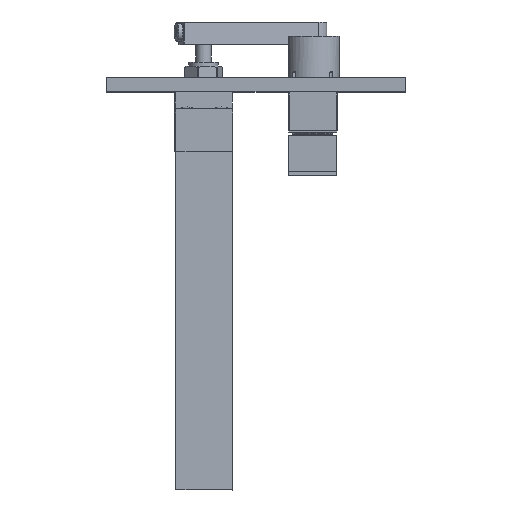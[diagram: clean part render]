
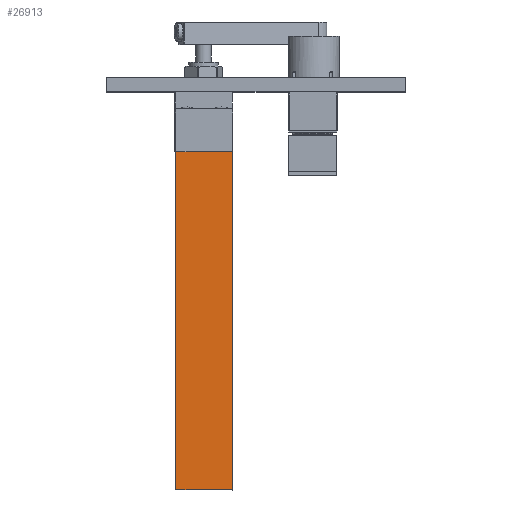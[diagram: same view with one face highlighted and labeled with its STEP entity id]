
A CAD part, top view. The second image highlights one B-rep face of the part: STEP entity #26913.
In plain terms, the highlighted planar face has unit normal (0.015, 0, 1) as drawn and (0, 0, 1) by its records, which use the part's own axes.
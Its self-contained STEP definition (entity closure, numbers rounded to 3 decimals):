
#767 = VECTOR ( 'NONE', #49065, 1000. ) ;
#1006 = PLANE ( 'NONE',  #15538 ) ;
#2140 = LINE ( 'NONE', #9544, #41131 ) ;
#5461 = ORIENTED_EDGE ( 'NONE', *, *, #38863, .F. ) ;
#5748 = LINE ( 'NONE', #20851, #45701 ) ;
#6361 = EDGE_CURVE ( 'NONE', #32248, #42306, #5748, .T. ) ;
#8683 = FACE_OUTER_BOUND ( 'NONE', #48310, .T. ) ;
#9544 = CARTESIAN_POINT ( 'NONE',  ( -20., 119., 7.5 ) ) ;
#9872 = CARTESIAN_POINT ( 'NONE',  ( -20., 119., 7.5 ) ) ;
#11547 = EDGE_CURVE ( 'NONE', #49850, #47573, #2140, .T. ) ;
#15538 = AXIS2_PLACEMENT_3D ( 'NONE', #17145, #44982, #37551 ) ;
#16026 = ORIENTED_EDGE ( 'NONE', *, *, #11547, .T. ) ;
#16731 = CARTESIAN_POINT ( 'NONE',  ( -20., -119., 7.5 ) ) ;
#17145 = CARTESIAN_POINT ( 'NONE',  ( -20., 119., 7.5 ) ) ;
#20101 = CARTESIAN_POINT ( 'NONE',  ( 20., 119., 7.5 ) ) ;
#20242 = CARTESIAN_POINT ( 'NONE',  ( 20., -119., 7.5 ) ) ;
#20851 = CARTESIAN_POINT ( 'NONE',  ( 20., 119., 7.5 ) ) ;
#26913 = ADVANCED_FACE ( 'NONE', ( #8683 ), #1006, .F. ) ;
#28647 = LINE ( 'NONE', #16731, #767 ) ;
#28796 = DIRECTION ( 'NONE',  ( 0., -1., 0. ) ) ;
#29384 = ORIENTED_EDGE ( 'NONE', *, *, #38935, .T. ) ;
#30439 = ORIENTED_EDGE ( 'NONE', *, *, #6361, .F. ) ;
#32248 = VERTEX_POINT ( 'NONE', #20101 ) ;
#32362 = CARTESIAN_POINT ( 'NONE',  ( -20., 119., 7.5 ) ) ;
#35472 = CARTESIAN_POINT ( 'NONE',  ( -20., -119., 7.5 ) ) ;
#37551 = DIRECTION ( 'NONE',  ( -1., 0., 0. ) ) ;
#38863 = EDGE_CURVE ( 'NONE', #49850, #32248, #41367, .T. ) ;
#38935 = EDGE_CURVE ( 'NONE', #47573, #42306, #28647, .T. ) ;
#40836 = DIRECTION ( 'NONE',  ( 1., 0., 0. ) ) ;
#41131 = VECTOR ( 'NONE', #49827, 1000. ) ;
#41367 = LINE ( 'NONE', #32362, #49025 ) ;
#42306 = VERTEX_POINT ( 'NONE', #20242 ) ;
#44982 = DIRECTION ( 'NONE',  ( 0., 0., -1. ) ) ;
#45701 = VECTOR ( 'NONE', #28796, 1000. ) ;
#47573 = VERTEX_POINT ( 'NONE', #35472 ) ;
#48310 = EDGE_LOOP ( 'NONE', ( #29384, #30439, #5461, #16026 ) ) ;
#49025 = VECTOR ( 'NONE', #40836, 1000. ) ;
#49065 = DIRECTION ( 'NONE',  ( 1., 0., 0. ) ) ;
#49827 = DIRECTION ( 'NONE',  ( 0., -1., 0. ) ) ;
#49850 = VERTEX_POINT ( 'NONE', #9872 ) ;
